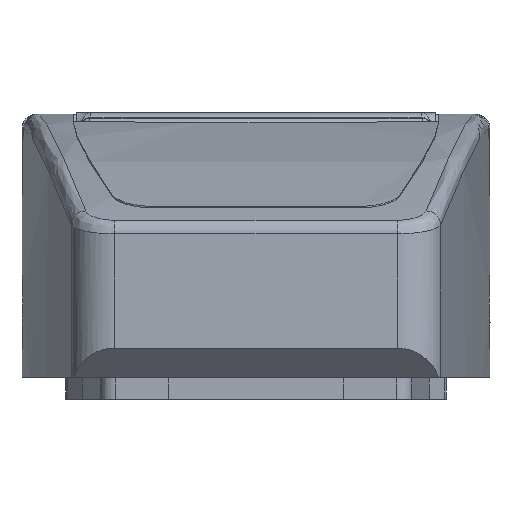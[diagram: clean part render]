
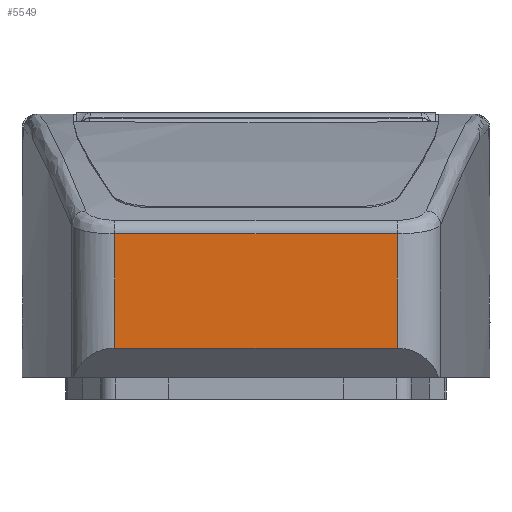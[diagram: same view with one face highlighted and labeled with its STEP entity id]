
A CAD part, left-side view. The second image highlights one B-rep face of the part: STEP entity #5549.
In plain terms, the highlighted planar face has unit normal (-1, 0, 0).
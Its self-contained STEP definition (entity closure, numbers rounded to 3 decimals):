
#338=PLANE('',#5930);
#546=FACE_OUTER_BOUND('',#884,.T.);
#884=EDGE_LOOP('',(#4147,#4148,#4149,#4150));
#1274=LINE('',#8292,#1758);
#1277=LINE('',#8432,#1761);
#1295=LINE('',#8477,#1779);
#1297=LINE('',#8491,#1781);
#1758=VECTOR('',#6572,19.324);
#1761=VECTOR('',#6587,7.81);
#1779=VECTOR('',#6627,7.81);
#1781=VECTOR('',#6635,19.324);
#2454=VERTEX_POINT('',#8219);
#2463=VERTEX_POINT('',#8291);
#2472=VERTEX_POINT('',#8431);
#2488=VERTEX_POINT('',#8475);
#3052=EDGE_CURVE('',#2454,#2463,#1274,.T.);
#3065=EDGE_CURVE('',#2463,#2472,#1277,.T.);
#3087=EDGE_CURVE('',#2488,#2454,#1295,.T.);
#3092=EDGE_CURVE('',#2472,#2488,#1297,.T.);
#4147=ORIENTED_EDGE('',*,*,#3052,.F.);
#4148=ORIENTED_EDGE('',*,*,#3087,.F.);
#4149=ORIENTED_EDGE('',*,*,#3092,.F.);
#4150=ORIENTED_EDGE('',*,*,#3065,.F.);
#5549=ADVANCED_FACE('',(#546),#338,.T.);
#5930=AXIS2_PLACEMENT_3D('',#8692,#6704,#6705);
#6572=DIRECTION('',(0.,-1.,0.));
#6587=DIRECTION('',(0.,0.,-1.));
#6627=DIRECTION('',(0.,0.,1.));
#6635=DIRECTION('',(0.,1.,0.));
#6704=DIRECTION('center_axis',(-1.,0.,0.));
#6705=DIRECTION('ref_axis',(0.,-1.,0.));
#8219=CARTESIAN_POINT('',(-49.5,9.662,9.81));
#8291=CARTESIAN_POINT('',(-49.5,-9.662,9.81));
#8292=CARTESIAN_POINT('',(-49.5,0.,9.81));
#8431=CARTESIAN_POINT('',(-49.5,-9.662,2.));
#8432=CARTESIAN_POINT('',(-49.5,-9.662,0.));
#8475=CARTESIAN_POINT('',(-49.5,9.662,2.));
#8477=CARTESIAN_POINT('',(-49.5,9.662,0.));
#8491=CARTESIAN_POINT('',(-49.5,6.125,2.));
#8692=CARTESIAN_POINT('Origin',(-49.5,12.25,0.));
